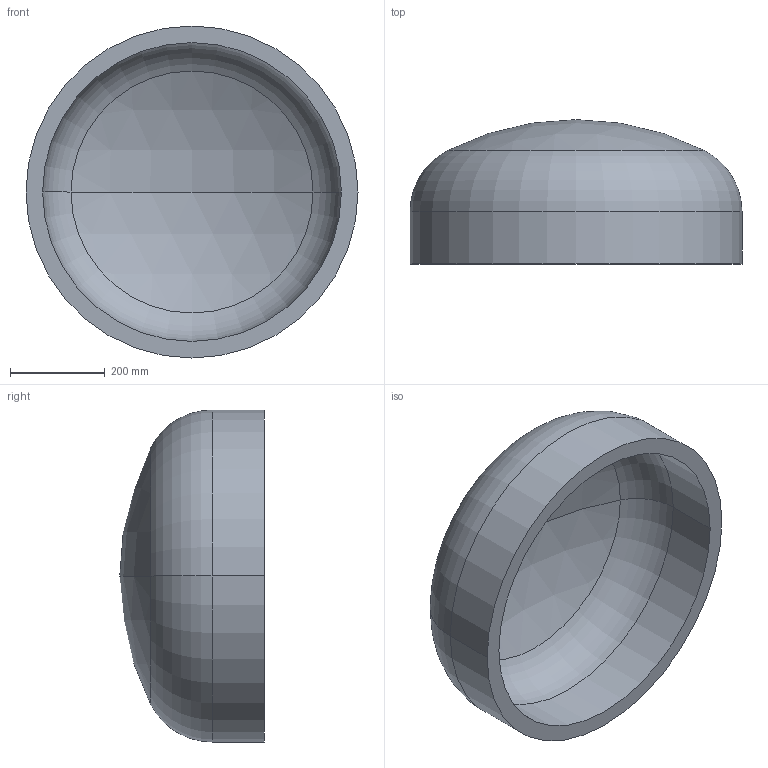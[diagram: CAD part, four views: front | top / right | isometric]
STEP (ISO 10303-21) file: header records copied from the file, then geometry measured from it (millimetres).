
FILE_DESCRIPTION (( 'STEP AP203' ), '1' );
FILE_NAME ('DIN 28013 Korbbogenform_-_Boden DIN 28013 - 700 x 110 - I - s=35.step', '2016-07-01T08:07:01', ( '' ), ( '' ), 'SwSTEP 2.0', 'SolidWorks 2013', '' );
FILE_SCHEMA (( 'CONFIG_CONTROL_DESIGN' ));
Length unit declared in the file: millimetre
Products named in the file (1): DIN 28013 Korbbogenform_-_Boden DIN 28013 - 700 x 110 - I - s=35
Bounding box: 700 x 304.41 x 700 mm (x, y, z)
Volume: 25610621.5 mm3; surface area: 1539150 mm2
Topology: 1 solids, 1 shells, 13 faces, 24 edges, 14 vertices
Faces by surface type: torus 4, cylinder 4, sphere 4, plane 1
Entity records: 407 total; most frequent: DIRECTION 72, CARTESIAN_POINT 52, ORIENTED_EDGE 48, AXIS2_PLACEMENT_3D 34, EDGE_CURVE 24, CIRCLE 20, VERTEX_POINT 14, EDGE_LOOP 14
